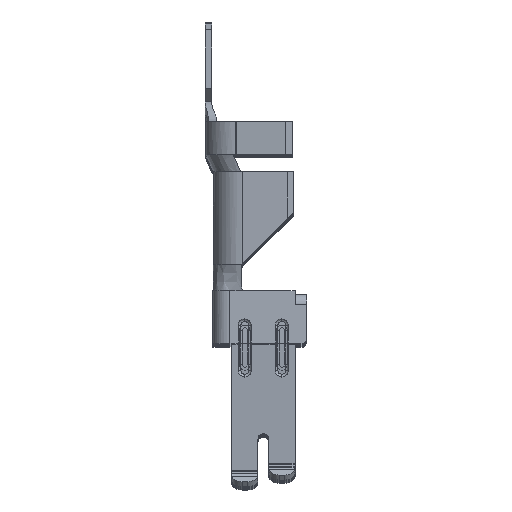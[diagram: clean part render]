
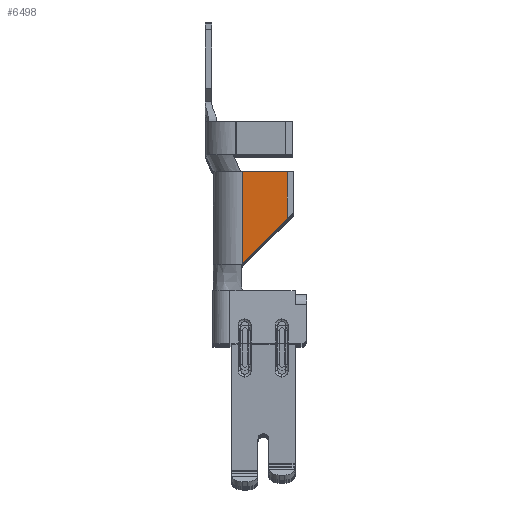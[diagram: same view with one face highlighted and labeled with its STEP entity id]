
A CAD part, top view. The second image highlights one B-rep face of the part: STEP entity #6498.
In plain terms, the highlighted planar face has unit normal (-0.087, 0, 0.996).
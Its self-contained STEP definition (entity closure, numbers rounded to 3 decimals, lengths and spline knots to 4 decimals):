
#5164=CARTESIAN_POINT('Vertex',(2.8017,-10.7571,5.4527)) ;
#5167=CARTESIAN_POINT('Line Origine',(2.8017,-1.8,5.4527)) ;
#5171=CARTESIAN_POINT('Vertex',(2.8017,-3.8,5.4527)) ;
#6435=CARTESIAN_POINT('Vertex',(2.8392,-10.7119,5.456)) ;
#6439=CARTESIAN_POINT('Control Point',(2.8017,-10.7571,5.4527)) ;
#6440=CARTESIAN_POINT('Control Point',(2.8127,-10.7408,5.4536)) ;
#6441=CARTESIAN_POINT('Control Point',(2.8253,-10.7257,5.4547)) ;
#6442=CARTESIAN_POINT('Control Point',(2.8392,-10.7119,5.456)) ;
#6467=CARTESIAN_POINT('Axis2P3D Location',(2.8017,-1.8,5.4527)) ;
#6472=CARTESIAN_POINT('Line Origine',(4.5196,-9.0528,5.603)) ;
#6476=CARTESIAN_POINT('Vertex',(6.2,-7.3937,5.75)) ;
#6479=CARTESIAN_POINT('Line Origine',(6.2,-5.5968,5.75)) ;
#6483=CARTESIAN_POINT('Vertex',(6.2,-3.8,5.75)) ;
#6486=CARTESIAN_POINT('Line Origine',(4.5008,-3.8,5.6013)) ;
#5168=DIRECTION('Vector Direction',(0.,-1.,0.)) ;
#6468=DIRECTION('Axis2P3D Direction',(0.087,0.,-0.996)) ;
#6469=DIRECTION('Axis2P3D XDirection',(-0.996,0.,-0.087)) ;
#6473=DIRECTION('Vector Direction',(-0.71,-0.701,-0.062)) ;
#6480=DIRECTION('Vector Direction',(0.,-1.,0.)) ;
#6487=DIRECTION('Vector Direction',(0.996,0.,0.087)) ;
#6470=AXIS2_PLACEMENT_3D('Plane Axis2P3D',#6467,#6468,#6469) ;
#6492=ORIENTED_EDGE('',*,*,#5173,.T.) ;
#6493=ORIENTED_EDGE('',*,*,#6443,.T.) ;
#6494=ORIENTED_EDGE('',*,*,#6478,.F.) ;
#6495=ORIENTED_EDGE('',*,*,#6485,.F.) ;
#6496=ORIENTED_EDGE('',*,*,#6490,.F.) ;
#5169=VECTOR('Line Direction',#5168,1.) ;
#6474=VECTOR('Line Direction',#6473,1.) ;
#6481=VECTOR('Line Direction',#6480,1.) ;
#6488=VECTOR('Line Direction',#6487,1.) ;
#6498=ADVANCED_FACE('MANIFOLD_SOLID_BREP #93',(#6497),#6471,.F.) ;
#6438=B_SPLINE_CURVE_WITH_KNOTS('',3,(#6439,#6440,#6441,#6442),.UNSPECIFIED.,.F.,.U.,(4,4),(0.,0.1021),.UNSPECIFIED.) ;
#5173=EDGE_CURVE('',#5172,#5165,#5170,.T.) ;
#6443=EDGE_CURVE('',#5165,#6436,#6438,.T.) ;
#6478=EDGE_CURVE('',#6477,#6436,#6475,.T.) ;
#6485=EDGE_CURVE('',#6484,#6477,#6482,.T.) ;
#6490=EDGE_CURVE('',#5172,#6484,#6489,.T.) ;
#6491=EDGE_LOOP('',(#6492,#6493,#6494,#6495,#6496)) ;
#6497=FACE_OUTER_BOUND('',#6491,.T.) ;
#5170=LINE('Line',#5167,#5169) ;
#6475=LINE('Line',#6472,#6474) ;
#6482=LINE('Line',#6479,#6481) ;
#6489=LINE('Line',#6486,#6488) ;
#6471=PLANE('Plane',#6470) ;
#5165=VERTEX_POINT('',#5164) ;
#5172=VERTEX_POINT('',#5171) ;
#6436=VERTEX_POINT('',#6435) ;
#6477=VERTEX_POINT('',#6476) ;
#6484=VERTEX_POINT('',#6483) ;
